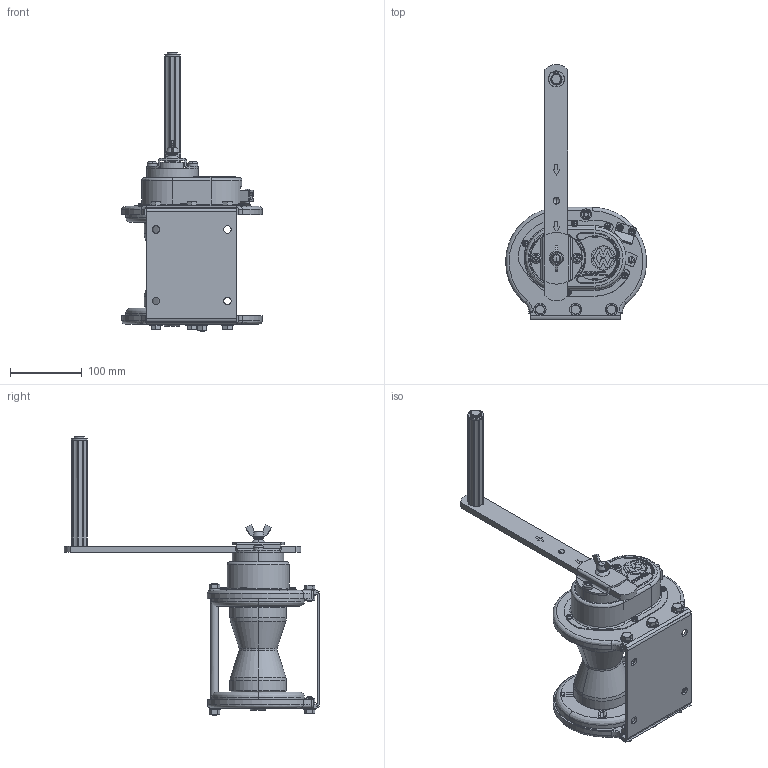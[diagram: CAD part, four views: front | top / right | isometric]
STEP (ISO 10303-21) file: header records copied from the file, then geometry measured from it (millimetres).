
FILE_DESCRIPTION( (''), '2;1');
FILE_NAME ('MC-1.stp','2023-12-25T11:41:44',(''),(''),'spGate 19.8.2 (****-****-****-****)','','');
FILE_SCHEMA (('AUTOMOTIVE_DESIGN'));
Length unit declared in the file: millimetre
Products named in the file (3): Assembly; MC-1-prt0; MC-1-prt1
Assembly tree (2 placements, depth 2):
  Assembly
    MC-1-prt0
    MC-1-prt1
Bounding box: 196.82 x 356.93 x 389.8 mm (x, y, z)
Volume: 1287490.6 mm3; surface area: 398369.8 mm2
Topology: 2 solids, 2 shells, 1968 faces, 5217 edges, 3289 vertices
Faces by surface type: plane 983, cylinder 660, bspline 253, sphere 72
Entity records: 105079 total; most frequent: CARTESIAN_POINT 17525, ORIENTED_EDGE 10222, DIRECTION 9401, COLOUR_RGB 7081, PRESENTATION_STYLE_ASSIGNMENT 7081, STYLED_ITEM 7081, EDGE_CURVE 5111, DRAUGHTING_PRE_DEFINED_CURVE_FONT 5111
